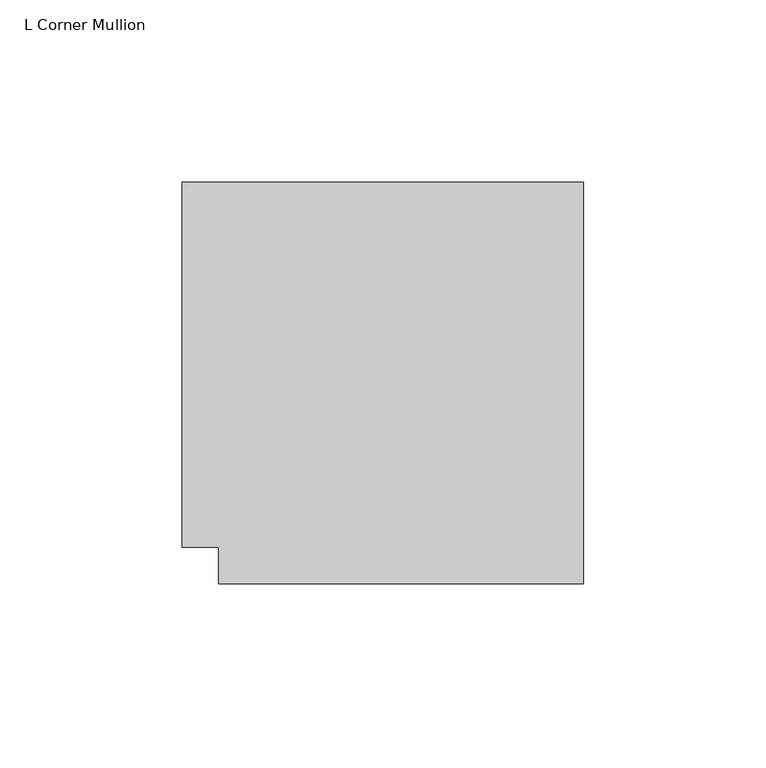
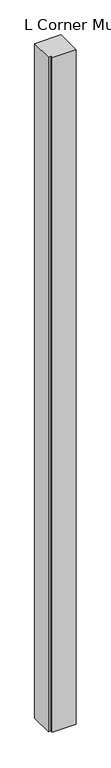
"""IFC4 building model written with IfcOpenShell, lengths in millimetres: member geometry, L Corner Mullion : 22_IM_VNS_54_HOEK."""

from ifc_helpers import new_model, si_unit, frame, origin, place, context, project, spatial, polyline, outline, extrude, source, transform, mapped, element, save


def l_corner_mullion_85c57a4c(model_context):
    return source(origin(), model_context, "Body", "SweptSolid", [
        extrude(outline(polyline([(-50.0, -60.0), (-50.0, -50.0), (-60.0, -50.0), (-60.0, 50.0), (50.0, 50.0), (50.0, -60.0), (-50.0, -60.0)])), frame((0.0, 0.0, -3000.0), z_axis=(0.0, 0.0, 1.0), x_axis=(1.0, 0.0, 0.0)), (0.0, 0.0, 1.0), 3000.0),
    ])


if __name__ == "__main__":
    model = new_model("IFC4")
    model_context = context("Model", 3, world=origin())
    ifc_project = project(units=[si_unit("LENGTHUNIT", "METRE", prefix="MILLI")], contexts=[model_context])
    site = spatial("IfcSite", under=ifc_project)
    building = spatial("IfcBuilding", under=site)
    placement = place(None, origin())
    l_corner_mullion_shape = l_corner_mullion_85c57a4c(model_context)
    element("IfcMember", 1, ObjectType="L Corner Mullion : 22_IM_VNS_54_HOEK", at=placement, inside=building, context=model_context, shape_type="MappedRepresentation", body=[
        mapped(l_corner_mullion_shape, transform((0.0, 0.0, 0.0), x_axis=(1.0, 0.0, 0.0), y_axis=(0.0, 1.0, 0.0), z_axis=(0.0, 0.0, 1.0))),
    ])
    save(model, "model.ifc")
